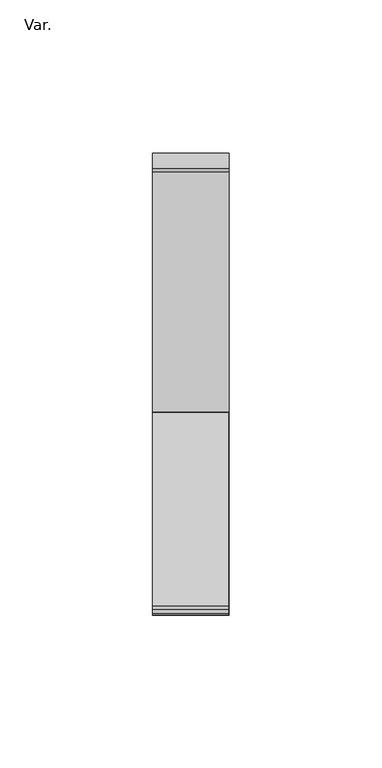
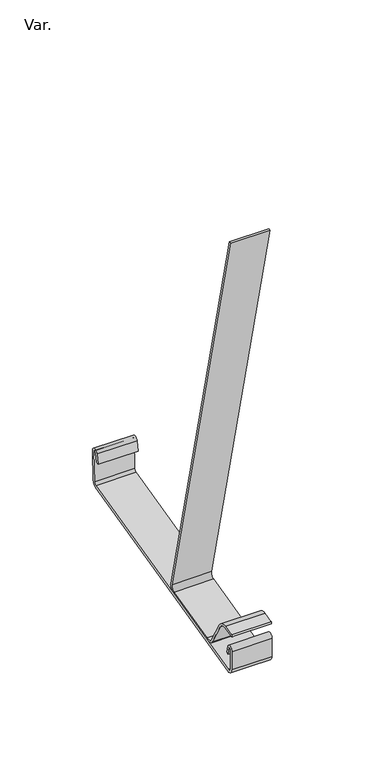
"""IFC4 building model written with IfcOpenShell, lengths in millimetres: pipe fitting geometry, PavcoWavin_UnionesDeTuberia_ZCanal Amazona_Soporte Metálico_NoUsarUnion : Var.."""

from ifc_helpers import new_model, si_unit, point, frame, frame_2d, origin, place, context, project, spatial, polyline, circle_curve, trimmed, segment, composite_curve, outline, extrude, source, transform, mapped, element, save


def var_4f1b463e(model_context):
    return source(origin(), model_context, "Body", "SweptSolid", [
        extrude(outline(composite_curve([segment(trimmed(circle_curve(frame_2d((68.8032653, -87.840891)), 2.0), [point((69.270156, -89.7856309))], [point((70.7873735, -88.0925149))], True, "CARTESIAN"), True, "CONTINUOUS"), segment(polyline([(70.7873735, -88.0925149), (71.6248658, -68.910789)]), True, "CONTINUOUS"), segment(trimmed(circle_curve(frame_2d((70.6407068, -68.8678197)), 0.9850966), [point((71.6248658, -68.910789))], [point((69.7065164, -68.555244))], True, "CARTESIAN"), True, "CONTINUOUS"), segment(polyline([(69.7065164, -68.555244), (68.7009269, -73.9809194), (67.1043398, -74.364226), (68.2463907, -68.2022704)]), True, "CONTINUOUS"), segment(trimmed(circle_curve(frame_2d((70.6407068, -68.8678197)), 2.4850966), [point((68.2463907, -68.2022704))], [point((73.1234381, -68.9762181))], False, "CARTESIAN"), True, "CONTINUOUS"), segment(polyline([(73.1234381, -68.9762181), (72.2836209, -88.2111953)]), True, "CONTINUOUS"), segment(trimmed(circle_curve(frame_2d((68.8032653, -87.840891)), 3.5), [point((72.2836209, -88.2111953))], [point((69.6203241, -91.2441858))], False, "CARTESIAN"), True, "CONTINUOUS"), segment(polyline([(69.6203241, -91.2441858), (-73.4872239, -125.6012683)]), True, "CONTINUOUS"), segment(trimmed(circle_curve(frame_2d((-74.0088381, -122.1403553)), 3.5), [point((-73.4872239, -125.6012683))], [point((-77.5087599, -122.1637423))], False, "CARTESIAN"), True, "CONTINUOUS"), segment(polyline([(-77.5087599, -122.1637423), (-77.8292533, -109.9245947)]), True, "CONTINUOUS"), segment(trimmed(circle_curve(frame_2d((-75.4513111, -109.862326)), 2.3787573), [point((-77.8292533, -109.9245947))], [point((-73.227369, -109.0181887))], False, "CARTESIAN"), True, "CONTINUOUS"), segment(polyline([(-73.227369, -109.0181887), (-72.0775267, -113.8076264), (-73.5360816, -114.1577944), (-74.6581577, -109.4840113)]), True, "CONTINUOUS"), segment(trimmed(circle_curve(frame_2d((-75.4513111, -109.862326)), 0.8787573), [point((-74.6581577, -109.4840113))], [point((-76.3297673, -109.8853292))], True, "CARTESIAN"), True, "CONTINUOUS"), segment(polyline([(-76.3297673, -109.8853292), (-76.0088379, -122.141128)]), True, "CONTINUOUS"), segment(trimmed(circle_curve(frame_2d((-74.0088381, -122.1403553)), 2.0), [point((-76.0088379, -122.141128))], [point((-73.7658664, -124.1255416))], True, "CARTESIAN"), True, "CONTINUOUS"), segment(polyline([(-73.7658664, -124.1255416), (69.270156, -89.7856309)]), True, "CONTINUOUS")], self_intersect=False)), frame((0.0, 0.0, 0.0), z_axis=(1.0, 0.0, 0.0), x_axis=(0.0, 1.0, 0.0)), (0.0, 0.0, 1.0), 25.0),
        extrude(outline(composite_curve([segment(trimmed(circle_curve(frame_2d((-15.7456779, -105.876783)), 4.2), [point((-11.6617242, -104.8963125))], [point((-14.7652073, -109.9607367))], False, "CARTESIAN"), True, "CONTINUOUS"), segment(polyline([(-14.7652073, -109.9607367), (-50.4621911, -118.5308242)]), True, "CONTINUOUS"), segment(trimmed(circle_curve(frame_2d((-52.0004048, -112.7830943)), 5.95), [point((-50.4621911, -118.5308242))], [point((-56.8214129, -116.2702682))], False, "CARTESIAN"), True, "CONTINUOUS"), segment(polyline([(-56.8214129, -116.2702682), (-65.3714186, -101.1581842)]), True, "CONTINUOUS"), segment(trimmed(circle_curve(frame_2d((-69.5056081, -103.4971961)), 4.75), [point((-65.3714186, -101.1581842))], [point((-70.2969895, -98.8135847))], True, "CARTESIAN"), True, "CONTINUOUS"), segment(polyline([(-70.2969895, -98.8135847), (-77.0132647, -100.4260198)]), True, "CONTINUOUS"), segment(trimmed(circle_curve(frame_2d((-77.153006, -99.8439554)), 0.5986038), [point((-77.0132647, -100.4260198))], [point((-77.2927473, -99.261891))], False, "CARTESIAN"), True, "CONTINUOUS"), segment(polyline([(-77.2927473, -99.261891), (-70.4969174, -97.6303566)]), True, "CONTINUOUS"), segment(trimmed(circle_curve(frame_2d((-69.5056081, -103.4971961)), 5.95), [point((-70.4969174, -97.6303566))], [point((-64.3269918, -100.5672759))], False, "CARTESIAN"), True, "CONTINUOUS"), segment(polyline([(-64.3269918, -100.5672759), (-55.8117747, -115.6178712)]), True, "CONTINUOUS"), segment(trimmed(circle_curve(frame_2d((-52.0004048, -112.7830943)), 4.75), [point((-55.8117747, -115.6178712))], [point((-50.758271, -117.3678085))], True, "CARTESIAN"), True, "CONTINUOUS"), segment(polyline([(-50.758271, -117.3678085), (-15.0453418, -108.7938927)]), True, "CONTINUOUS"), segment(trimmed(circle_curve(frame_2d((-15.7456779, -105.876783)), 3.0), [point((-15.0453418, -108.7938927))], [point((-12.8285681, -105.1764469))], True, "CARTESIAN"), True, "CONTINUOUS"), segment(polyline([(-12.8285681, -105.1764469), (-76.0165134, 158.020287), (-74.8496695, 158.3004215), (-11.6617242, -104.8963125)]), True, "CONTINUOUS")], self_intersect=False)), frame((0.0, 0.0, 0.0), z_axis=(1.0, 0.0, 0.0), x_axis=(0.0, 1.0, 0.0)), (0.0, 0.0, 1.0), 24.7),
    ])


if __name__ == "__main__":
    model = new_model("IFC4")
    model_context = context("Model", 3, world=origin())
    ifc_project = project(units=[si_unit("LENGTHUNIT", "METRE", prefix="MILLI")], contexts=[model_context])
    site = spatial("IfcSite", under=ifc_project)
    building = spatial("IfcBuilding", under=site)
    placement = place(None, origin())
    var_shape = var_4f1b463e(model_context)
    element("IfcPipeFitting", 1, ObjectType="PavcoWavin_UnionesDeTuberia_ZCanal Amazona_Soporte Metálico_NoUsarUnion : Var.", at=placement, inside=building, context=model_context, shape_type="MappedRepresentation", body=[
        mapped(var_shape, transform((0.0, 0.0, 0.0), x_axis=(1.0, 0.0, 0.0), y_axis=(0.0, 1.0, 0.0), z_axis=(0.0, 0.0, 1.0))),
    ])
    save(model, "model.ifc")
